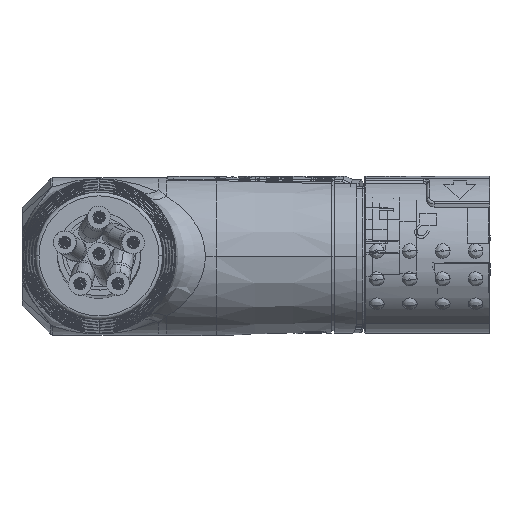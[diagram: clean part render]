
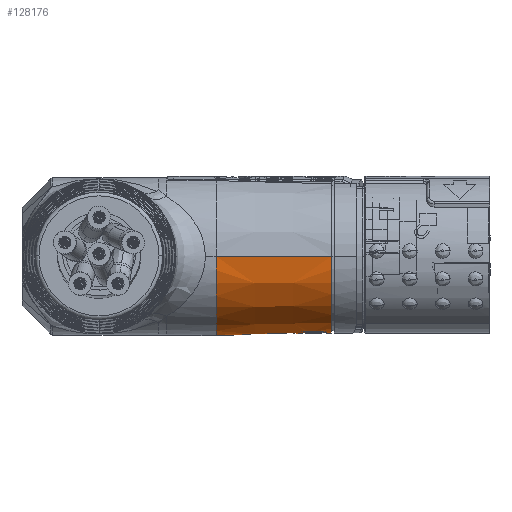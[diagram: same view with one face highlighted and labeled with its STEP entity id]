
A CAD part, top view. The second image highlights one B-rep face of the part: STEP entity #128176.
In plain terms, the highlighted conical face has half-angle 1.457 degrees and reference radius 10.86 mm.
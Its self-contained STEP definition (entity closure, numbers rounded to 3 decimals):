
#1266 = CARTESIAN_POINT ( 'NONE',  ( 28.917, -10.34, -26.439 ) ) ;
#2468 = CARTESIAN_POINT ( 'NONE',  ( 27.182, -10.576, -24.308 ) ) ;
#5491 = CARTESIAN_POINT ( 'NONE',  ( 28.178, -10.407, -22.704 ) ) ;
#6148 = CARTESIAN_POINT ( 'NONE',  ( 29.312, -10.33, -22.439 ) ) ;
#6304 = VERTEX_POINT ( 'NONE', #69498 ) ;
#6880 = EDGE_CURVE ( 'NONE', #121927, #10359, #121830, .T. ) ;
#7576 = CARTESIAN_POINT ( 'NONE',  ( 16., 0., -35.299 ) ) ;
#8508 = CARTESIAN_POINT ( 'NONE',  ( 16., 0., -24.439 ) ) ;
#10359 = VERTEX_POINT ( 'NONE', #111061 ) ;
#11863 = EDGE_LOOP ( 'NONE', ( #14076, #122638, #19403, #14995 ) ) ;
#12298 = CARTESIAN_POINT ( 'NONE',  ( 27.86, -10.451, -22.933 ) ) ;
#12382 = CARTESIAN_POINT ( 'NONE',  ( 27.447, -10.522, -25.442 ) ) ;
#12781 = CARTESIAN_POINT ( 'NONE',  ( 27.182, -10.576, -24.439 ) ) ;
#12927 = CARTESIAN_POINT ( 'NONE',  ( 31.079, -10.457, -23.794 ) ) ;
#13578 = CARTESIAN_POINT ( 'NONE',  ( 31.182, -10.474, -24.308 ) ) ;
#14076 = ORIENTED_EDGE ( 'NONE', *, *, #111291, .F. ) ;
#14995 = ORIENTED_EDGE ( 'NONE', *, *, #40228, .F. ) ;
#15951 = CARTESIAN_POINT ( 'NONE',  ( 27.195, -10.573, -24.178 ) ) ;
#16554 = DIRECTION ( 'NONE',  ( -1., 0., 0. ) ) ;
#17629 = CARTESIAN_POINT ( 'NONE',  ( 29.824, -10.336, -26.338 ) ) ;
#19403 = ORIENTED_EDGE ( 'NONE', *, *, #123147, .T. ) ;
#19710 = AXIS2_PLACEMENT_3D ( 'NONE', #26432, #16554, #27093 ) ;
#20239 = CARTESIAN_POINT ( 'NONE',  ( 31.117, -10.463, -24.96 ) ) ;
#22775 = CARTESIAN_POINT ( 'NONE',  ( 27.435, -10.524, -23.432 ) ) ;
#23400 = CARTESIAN_POINT ( 'NONE',  ( 30.183, -10.355, -22.703 ) ) ;
#23481 = CARTESIAN_POINT ( 'NONE',  ( 28.654, -10.357, -26.386 ) ) ;
#26013 = LINE ( 'NONE', #76908, #109859 ) ;
#26432 = CARTESIAN_POINT ( 'NONE',  ( 16., 0., -24.439 ) ) ;
#27093 = DIRECTION ( 'NONE',  ( 0., 0., -1. ) ) ;
#30715 = CARTESIAN_POINT ( 'NONE',  ( 27.859, -10.451, -25.946 ) ) ;
#30735 = DIRECTION ( 'NONE',  ( -1., 0., 0. ) ) ;
#31340 = CARTESIAN_POINT ( 'NONE',  ( 27.675, -10.481, -25.761 ) ) ;
#31873 = CARTESIAN_POINT ( 'NONE',  ( 30.068, -10.347, -22.642 ) ) ;
#32519 = CARTESIAN_POINT ( 'NONE',  ( 30.401, -10.373, -22.849 ) ) ;
#36212 = CARTESIAN_POINT ( 'NONE',  ( 29.699, -10.332, -22.503 ) ) ;
#38257 = LINE ( 'NONE', #7576, #81043 ) ;
#40228 = EDGE_CURVE ( 'NONE', #110362, #85715, #115512, .T. ) ;
#42268 = CARTESIAN_POINT ( 'NONE',  ( 29.826, -10.336, -22.542 ) ) ;
#42936 = CARTESIAN_POINT ( 'NONE',  ( 30.929, -10.435, -23.432 ) ) ;
#43021 = CARTESIAN_POINT ( 'NONE',  ( 27.96, -10.436, -26.028 ) ) ;
#45966 = CARTESIAN_POINT ( 'NONE',  ( 29.442, -10.329, -22.452 ) ) ;
#48043 = DIRECTION ( 'NONE',  ( -1., 0., -0.025 ) ) ;
#48280 = CARTESIAN_POINT ( 'NONE',  ( 31.182, -10.474, -24.439 ) ) ;
#49588 = CARTESIAN_POINT ( 'NONE',  ( 30.401, -10.373, -26.031 ) ) ;
#50488 = CARTESIAN_POINT ( 'NONE',  ( 31.73, 0., -34.899 ) ) ;
#50848 = DIRECTION ( 'NONE',  ( 0., 0., 1. ) ) ;
#51536 = CARTESIAN_POINT ( 'NONE',  ( 27.182, -10.576, -24.703 ) ) ;
#52747 = CARTESIAN_POINT ( 'NONE',  ( 31.169, -10.472, -24.178 ) ) ;
#53408 = CARTESIAN_POINT ( 'NONE',  ( 31.182, -10.474, -24.439 ) ) ;
#55793 = CARTESIAN_POINT ( 'NONE',  ( 27.284, -10.554, -23.794 ) ) ;
#56650 = DIRECTION ( 'NONE',  ( -1., 0., 0.025 ) ) ;
#57487 = CARTESIAN_POINT ( 'NONE',  ( 29.699, -10.332, -26.376 ) ) ;
#58898 = AXIS2_PLACEMENT_3D ( 'NONE', #8508, #30735, #108981 ) ;
#59418 = CARTESIAN_POINT ( 'NONE',  ( 30.78, -10.413, -25.67 ) ) ;
#60043 = CARTESIAN_POINT ( 'NONE',  ( 31.079, -10.457, -25.085 ) ) ;
#60960 = CONICAL_SURFACE ( 'NONE', #58898, 10.86, 0.025 ) ;
#63268 = CARTESIAN_POINT ( 'NONE',  ( 27.182, -10.576, -24.439 ) ) ;
#66244 = CARTESIAN_POINT ( 'NONE',  ( 27.246, -10.562, -23.921 ) ) ;
#69498 = CARTESIAN_POINT ( 'NONE',  ( 31.182, -10.474, -24.439 ) ) ;
#71168 = CARTESIAN_POINT ( 'NONE',  ( 27.591, -10.495, -25.659 ) ) ;
#71640 = ORIENTED_EDGE ( 'NONE', *, *, #117074, .T. ) ;
#72475 = CARTESIAN_POINT ( 'NONE',  ( 28.293, -10.393, -26.236 ) ) ;
#76908 = CARTESIAN_POINT ( 'NONE',  ( 16., 0., -13.579 ) ) ;
#77092 = CARTESIAN_POINT ( 'NONE',  ( 31.182, -10.474, -24.57 ) ) ;
#78369 = CARTESIAN_POINT ( 'NONE',  ( 30.928, -10.434, -25.449 ) ) ;
#78585 = CARTESIAN_POINT ( 'NONE',  ( 16., 0., -35.299 ) ) ;
#79020 = CARTESIAN_POINT ( 'NONE',  ( 30.183, -10.355, -26.175 ) ) ;
#80282 = CARTESIAN_POINT ( 'NONE',  ( 27.385, -10.534, -25.328 ) ) ;
#80906 = DIRECTION ( 'NONE',  ( -1., 0., 0. ) ) ;
#81043 = VECTOR ( 'NONE', #48043, 1000. ) ;
#81489 = CARTESIAN_POINT ( 'NONE',  ( 28.293, -10.393, -22.643 ) ) ;
#82771 = CARTESIAN_POINT ( 'NONE',  ( 27.583, -10.495, -23.21 ) ) ;
#85715 = VERTEX_POINT ( 'NONE', #118501 ) ;
#89465 = CARTESIAN_POINT ( 'NONE',  ( 30.066, -10.347, -26.238 ) ) ;
#90423 = B_SPLINE_CURVE_WITH_KNOTS ( 'NONE', 3,
 ( #48280, #77092, #107013, #20239, #60043, #78369, #59418, #99823, #49588, #79020, #89465, #17629, #57487, #97281, #102980, #1266, #23481, #72475, #112182, #43021, #30715, #31340, #71168, #12382, #80282, #120015, #51536, #63268 ),
 .UNSPECIFIED., .F., .F.,
 ( 4, 2, 2, 2, 2, 2, 2, 2, 2, 2, 2, 2, 2, 4 ),
 ( 0.005, 0.005, 0.005, 0.006, 0.006, 0.007, 0.007, 0.008, 0.008, 0.009, 0.009, 0.01, 0.01, 0.011 ),
 .UNSPECIFIED. ) ;
#92070 = B_SPLINE_CURVE_WITH_KNOTS ( 'NONE', 3,
 ( #105987, #2468, #15951, #66244, #55793, #22775, #82771, #12298, #93211, #5491, #81489, #121836, #121209, #6148, #45966, #36212, #42268, #31873, #23400, #32519, #112098, #102262, #42936, #12927, #102885, #52747, #13578, #53408 ),
 .UNSPECIFIED., .F., .F.,
 ( 4, 2, 2, 2, 2, 2, 2, 2, 2, 2, 2, 2, 2, 4 ),
 ( 0.011, 0.011, 0.012, 0.012, 0.013, 0.013, 0.014, 0.014, 0.015, 0.015, 0.015, 0.016, 0.017, 0.017 ),
 .UNSPECIFIED. ) ;
#92755 = EDGE_LOOP ( 'NONE', ( #111437, #71640 ) ) ;
#93211 = CARTESIAN_POINT ( 'NONE',  ( 27.962, -10.436, -22.849 ) ) ;
#97281 = CARTESIAN_POINT ( 'NONE',  ( 29.441, -10.329, -26.427 ) ) ;
#98514 = CARTESIAN_POINT ( 'NONE',  ( 31.73, 0., -24.439 ) ) ;
#98559 = FACE_BOUND ( 'NONE', #92755, .T. ) ;
#98962 = AXIS2_PLACEMENT_3D ( 'NONE', #98514, #80906, #50848 ) ;
#99823 = CARTESIAN_POINT ( 'NONE',  ( 30.501, -10.383, -25.948 ) ) ;
#102262 = CARTESIAN_POINT ( 'NONE',  ( 30.78, -10.413, -23.209 ) ) ;
#102885 = CARTESIAN_POINT ( 'NONE',  ( 31.118, -10.464, -23.921 ) ) ;
#102980 = CARTESIAN_POINT ( 'NONE',  ( 29.309, -10.33, -26.44 ) ) ;
#105987 = CARTESIAN_POINT ( 'NONE',  ( 27.182, -10.576, -24.439 ) ) ;
#106351 = VERTEX_POINT ( 'NONE', #12781 ) ;
#107013 = CARTESIAN_POINT ( 'NONE',  ( 31.169, -10.472, -24.703 ) ) ;
#108981 = DIRECTION ( 'NONE',  ( 0., 0., 1. ) ) ;
#109859 = VECTOR ( 'NONE', #56650, 1000. ) ;
#110362 = VERTEX_POINT ( 'NONE', #78585 ) ;
#111061 = CARTESIAN_POINT ( 'NONE',  ( 31.73, 0., -13.979 ) ) ;
#111291 = EDGE_CURVE ( 'NONE', #121927, #110362, #38257, .T. ) ;
#111437 = ORIENTED_EDGE ( 'NONE', *, *, #115158, .T. ) ;
#112098 = CARTESIAN_POINT ( 'NONE',  ( 30.504, -10.383, -22.933 ) ) ;
#112182 = CARTESIAN_POINT ( 'NONE',  ( 28.176, -10.407, -26.173 ) ) ;
#115158 = EDGE_CURVE ( 'NONE', #106351, #6304, #92070, .T. ) ;
#115512 = CIRCLE ( 'NONE', #19710, 10.86 ) ;
#117074 = EDGE_CURVE ( 'NONE', #6304, #106351, #90423, .T. ) ;
#118501 = CARTESIAN_POINT ( 'NONE',  ( 16., 0., -13.579 ) ) ;
#120015 = CARTESIAN_POINT ( 'NONE',  ( 27.234, -10.564, -24.963 ) ) ;
#121209 = CARTESIAN_POINT ( 'NONE',  ( 28.916, -10.34, -22.44 ) ) ;
#121830 = CIRCLE ( 'NONE', #98962, 10.46 ) ;
#121836 = CARTESIAN_POINT ( 'NONE',  ( 28.656, -10.357, -22.492 ) ) ;
#121927 = VERTEX_POINT ( 'NONE', #50488 ) ;
#122638 = ORIENTED_EDGE ( 'NONE', *, *, #6880, .T. ) ;
#123147 = EDGE_CURVE ( 'NONE', #10359, #85715, #26013, .T. ) ;
#128176 = ADVANCED_FACE ( 'NONE', ( #129171, #98559 ), #60960, .T. ) ;
#129171 = FACE_OUTER_BOUND ( 'NONE', #11863, .T. ) ;
